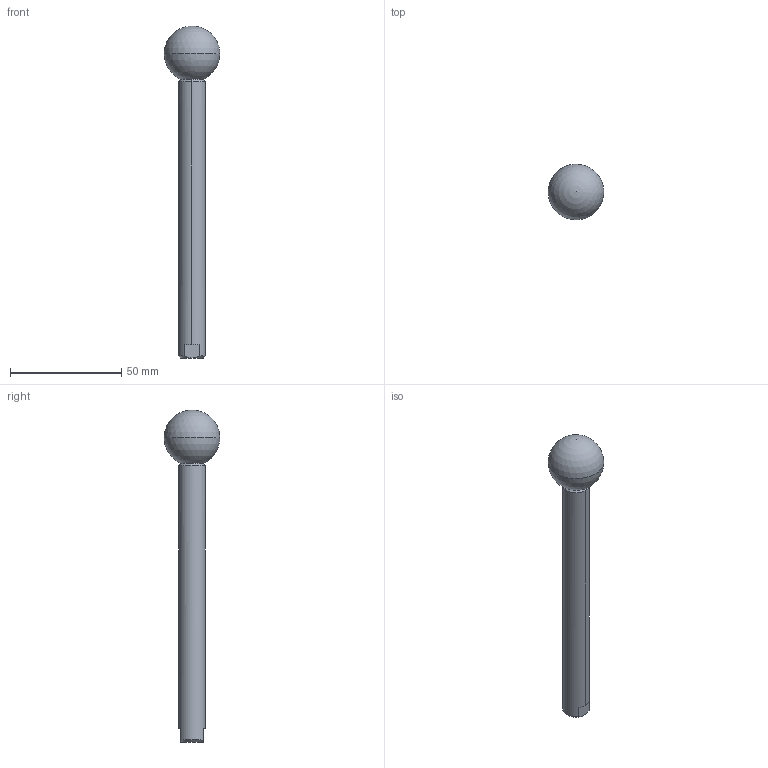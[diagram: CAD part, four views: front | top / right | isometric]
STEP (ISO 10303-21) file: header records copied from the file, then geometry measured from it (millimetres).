
FILE_DESCRIPTION (( 'STEP AP203' ), '1' );
FILE_NAME ('qlrcs-12125.STEP', '2021-10-21T08:20:28', ( '' ), ( '' ), 'SwSTEP 2.0', 'SolidWorks 2020', '' );
FILE_SCHEMA (( 'CONFIG_CONTROL_DESIGN' ));
Length unit declared in the file: millimetre
Products named in the file (1): qlrcs-12125
Bounding box: 24.98 x 24.98 x 149 mm (x, y, z)
Volume: 21854.2 mm3; surface area: 6923.4 mm2
Topology: 1 solids, 1 shells, 19 faces, 44 edges, 28 vertices
Faces by surface type: plane 7, cone 6, cylinder 4, sphere 2
Entity records: 621 total; most frequent: CARTESIAN_POINT 118, DIRECTION 98, ORIENTED_EDGE 80, AXIS2_PLACEMENT_3D 42, EDGE_CURVE 40, VERTEX_POINT 26, CIRCLE 22, EDGE_LOOP 22
